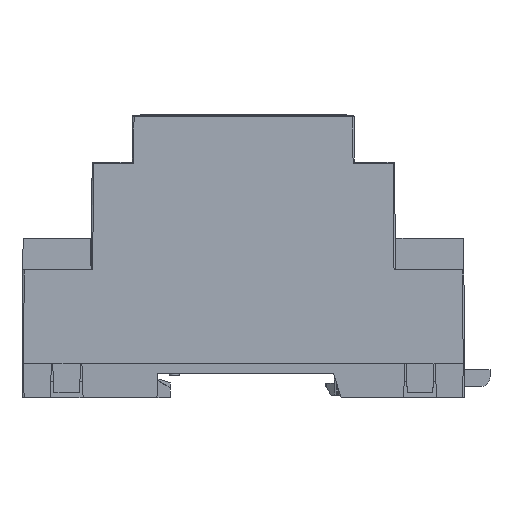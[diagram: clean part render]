
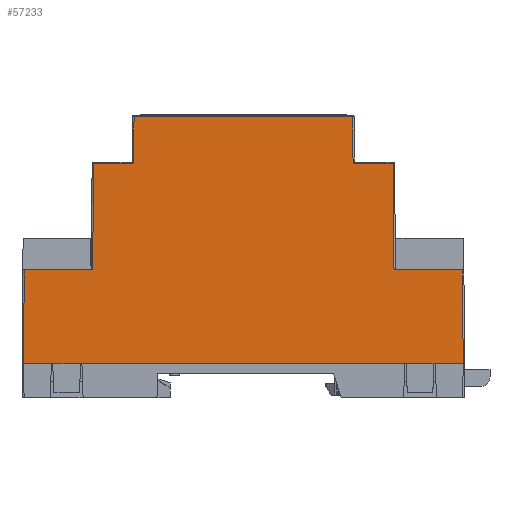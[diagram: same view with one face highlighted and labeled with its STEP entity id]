
A CAD part, front view. The second image highlights one B-rep face of the part: STEP entity #57233.
In plain terms, the highlighted planar face has unit normal (0, -1, 0.009) as drawn and (0, -1, -0.009) by its records, which use the part's own axes.
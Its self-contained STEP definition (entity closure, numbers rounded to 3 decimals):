
#4195=PLANE('',#61687);
#7226=FACE_OUTER_BOUND('',#10519,.T.);
#10519=EDGE_LOOP('',(#51716,#51717,#51718,#51719,#51720,#51721,#51722,#51723,
#51724,#51725,#51726,#51727,#51728,#51729,#51730,#51731));
#16390=LINE('',#92488,#22759);
#16404=LINE('',#92517,#22773);
#16449=LINE('',#92644,#22818);
#16450=LINE('',#92646,#22819);
#16451=LINE('',#92647,#22820);
#16452=LINE('',#92649,#22821);
#16453=LINE('',#92651,#22822);
#16454=LINE('',#92653,#22823);
#16455=LINE('',#92655,#22824);
#16456=LINE('',#92657,#22825);
#16457=LINE('',#92659,#22826);
#16458=LINE('',#92661,#22827);
#16459=LINE('',#92663,#22828);
#16460=LINE('',#92665,#22829);
#16461=LINE('',#92667,#22830);
#16462=LINE('',#92668,#22831);
#22759=VECTOR('',#75345,1000.);
#22773=VECTOR('',#75369,1000.);
#22818=VECTOR('',#75482,1000.);
#22819=VECTOR('',#75483,1000.);
#22820=VECTOR('',#75484,1000.);
#22821=VECTOR('',#75485,1000.);
#22822=VECTOR('',#75486,1000.);
#22823=VECTOR('',#75487,1000.);
#22824=VECTOR('',#75488,1000.);
#22825=VECTOR('',#75489,1000.);
#22826=VECTOR('',#75490,1000.);
#22827=VECTOR('',#75491,1000.);
#22828=VECTOR('',#75492,1000.);
#22829=VECTOR('',#75493,1000.);
#22830=VECTOR('',#75494,1000.);
#22831=VECTOR('',#75495,1000.);
#29498=VERTEX_POINT('',#92485);
#29499=VERTEX_POINT('',#92487);
#29508=VERTEX_POINT('',#92514);
#29509=VERTEX_POINT('',#92516);
#29557=VERTEX_POINT('',#92643);
#29558=VERTEX_POINT('',#92645);
#29559=VERTEX_POINT('',#92648);
#29560=VERTEX_POINT('',#92650);
#29561=VERTEX_POINT('',#92652);
#29562=VERTEX_POINT('',#92654);
#29563=VERTEX_POINT('',#92656);
#29564=VERTEX_POINT('',#92658);
#29565=VERTEX_POINT('',#92660);
#29566=VERTEX_POINT('',#92662);
#29567=VERTEX_POINT('',#92664);
#29568=VERTEX_POINT('',#92666);
#37005=EDGE_CURVE('',#29498,#29499,#16390,.T.);
#37020=EDGE_CURVE('',#29508,#29509,#16404,.T.);
#37085=EDGE_CURVE('',#29557,#29508,#16449,.T.);
#37086=EDGE_CURVE('',#29558,#29557,#16450,.T.);
#37087=EDGE_CURVE('',#29499,#29558,#16451,.T.);
#37088=EDGE_CURVE('',#29559,#29498,#16452,.T.);
#37089=EDGE_CURVE('',#29560,#29559,#16453,.T.);
#37090=EDGE_CURVE('',#29561,#29560,#16454,.T.);
#37091=EDGE_CURVE('',#29562,#29561,#16455,.T.);
#37092=EDGE_CURVE('',#29563,#29562,#16456,.T.);
#37093=EDGE_CURVE('',#29564,#29563,#16457,.T.);
#37094=EDGE_CURVE('',#29565,#29564,#16458,.T.);
#37095=EDGE_CURVE('',#29566,#29565,#16459,.T.);
#37096=EDGE_CURVE('',#29567,#29566,#16460,.T.);
#37097=EDGE_CURVE('',#29568,#29567,#16461,.T.);
#37098=EDGE_CURVE('',#29509,#29568,#16462,.T.);
#51716=ORIENTED_EDGE('',*,*,#37020,.F.);
#51717=ORIENTED_EDGE('',*,*,#37085,.F.);
#51718=ORIENTED_EDGE('',*,*,#37086,.F.);
#51719=ORIENTED_EDGE('',*,*,#37087,.F.);
#51720=ORIENTED_EDGE('',*,*,#37005,.F.);
#51721=ORIENTED_EDGE('',*,*,#37088,.F.);
#51722=ORIENTED_EDGE('',*,*,#37089,.F.);
#51723=ORIENTED_EDGE('',*,*,#37090,.F.);
#51724=ORIENTED_EDGE('',*,*,#37091,.F.);
#51725=ORIENTED_EDGE('',*,*,#37092,.F.);
#51726=ORIENTED_EDGE('',*,*,#37093,.F.);
#51727=ORIENTED_EDGE('',*,*,#37094,.F.);
#51728=ORIENTED_EDGE('',*,*,#37095,.F.);
#51729=ORIENTED_EDGE('',*,*,#37096,.F.);
#51730=ORIENTED_EDGE('',*,*,#37097,.F.);
#51731=ORIENTED_EDGE('',*,*,#37098,.F.);
#57233=ADVANCED_FACE('',(#7226),#4195,.T.);
#61687=AXIS2_PLACEMENT_3D('',#92642,#75480,#75481);
#75345=DIRECTION('',(1.,0.,0.));
#75369=DIRECTION('',(1.,0.,0.));
#75480=DIRECTION('center_axis',(0.,-1.,-0.009));
#75481=DIRECTION('ref_axis',(0.,0.009,-1.));
#75482=DIRECTION('',(1.,0.,0.));
#75483=DIRECTION('',(1.,0.,0.));
#75484=DIRECTION('',(1.,0.,0.));
#75485=DIRECTION('',(-0.009,-0.009,1.));
#75486=DIRECTION('',(-1.,0.,0.));
#75487=DIRECTION('',(-0.009,-0.009,1.));
#75488=DIRECTION('',(-1.,0.,0.));
#75489=DIRECTION('',(-0.009,-0.009,1.));
#75490=DIRECTION('',(-1.,0.,0.));
#75491=DIRECTION('',(-0.009,0.009,-1.));
#75492=DIRECTION('',(-1.,0.,0.));
#75493=DIRECTION('',(-0.009,0.009,-1.));
#75494=DIRECTION('',(-1.,0.,0.));
#75495=DIRECTION('',(-0.009,0.009,-1.));
#92485=CARTESIAN_POINT('',(-29630.192,-26789.581,37.513));
#92487=CARTESIAN_POINT('',(-29624.242,-26789.581,37.513));
#92488=CARTESIAN_POINT('',(-29630.492,-26789.581,37.513));
#92514=CARTESIAN_POINT('',(-29546.542,-26789.581,37.513));
#92516=CARTESIAN_POINT('',(-29540.592,-26789.581,37.513));
#92517=CARTESIAN_POINT('',(-29630.492,-26789.581,37.513));
#92642=CARTESIAN_POINT('Origin',(-29620.292,-26788.888,-41.977));
#92643=CARTESIAN_POINT('',(-29552.242,-26789.581,37.513));
#92644=CARTESIAN_POINT('',(-29620.292,-26789.581,37.513));
#92645=CARTESIAN_POINT('',(-29618.542,-26789.581,37.513));
#92646=CARTESIAN_POINT('',(-29620.292,-26789.581,37.513));
#92647=CARTESIAN_POINT('',(-29620.292,-26789.581,37.513));
#92648=CARTESIAN_POINT('',(-29630.026,-26789.416,18.513));
#92649=CARTESIAN_POINT('',(-29630.026,-26789.416,18.513));
#92650=CARTESIAN_POINT('',(-29616.092,-26789.416,18.513));
#92651=CARTESIAN_POINT('',(-29620.292,-26789.416,18.513));
#92652=CARTESIAN_POINT('',(-29615.903,-26789.226,-3.19));
#92653=CARTESIAN_POINT('',(-29615.903,-26789.226,-3.19));
#92654=CARTESIAN_POINT('',(-29607.745,-26789.226,-3.19));
#92655=CARTESIAN_POINT('',(-29620.292,-26789.226,-3.19));
#92656=CARTESIAN_POINT('',(-29607.662,-26789.143,-12.69));
#92657=CARTESIAN_POINT('',(-29607.662,-26789.143,-12.69));
#92658=CARTESIAN_POINT('',(-29563.122,-26789.143,-12.69));
#92659=CARTESIAN_POINT('',(-29620.292,-26789.143,-12.69));
#92660=CARTESIAN_POINT('',(-29563.039,-26789.226,-3.19));
#92661=CARTESIAN_POINT('',(-29563.039,-26789.226,-3.19));
#92662=CARTESIAN_POINT('',(-29554.881,-26789.226,-3.19));
#92663=CARTESIAN_POINT('',(-29620.292,-26789.226,-3.19));
#92664=CARTESIAN_POINT('',(-29554.692,-26789.416,18.513));
#92665=CARTESIAN_POINT('',(-29554.692,-26789.416,18.513));
#92666=CARTESIAN_POINT('',(-29540.758,-26789.416,18.513));
#92667=CARTESIAN_POINT('',(-29620.292,-26789.416,18.513));
#92668=CARTESIAN_POINT('',(-29540.592,-26789.581,37.513));
